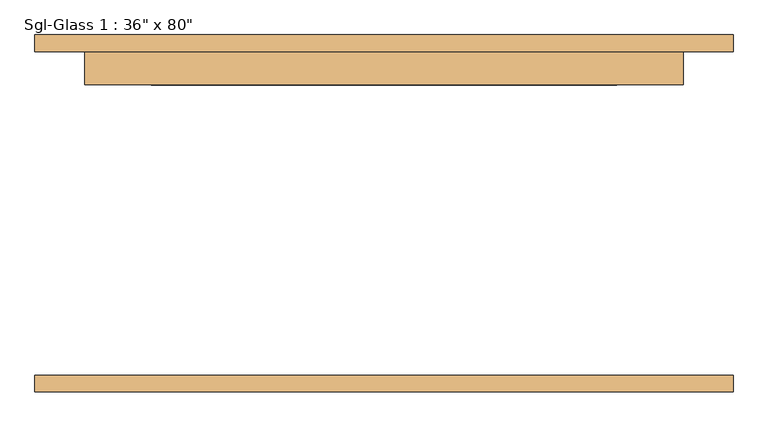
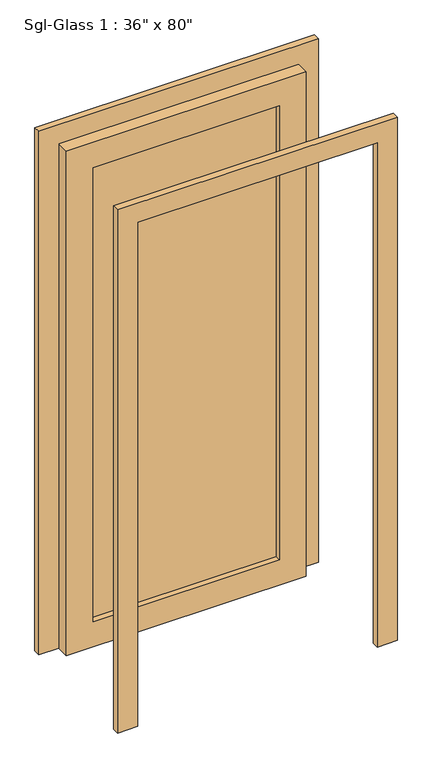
"""IFC4 building model written with IfcOpenShell, lengths in millimetres: door geometry."""

from ifc_helpers import new_model, si_unit, frame, origin, place, context, project, spatial, polyline, outline, extrude, source, transform, mapped, element, save


def door_78e9ea75(model_context):
    return source(origin(), model_context, "Body", "SweptSolid", [
        extrude(outline(polyline([(2032.0, 457.2), (0.0, 457.2), (0.0, 533.4), (2108.2, 533.4), (2108.2, -533.4), (0.0, -533.4), (0.0, -457.2), (2032.0, -457.2), (2032.0, 457.2)])), frame((0.0, -273.05, 0.0), z_axis=(0.0, 1.0, 0.0), x_axis=(0.0, 0.0, 1.0)), (0.0, 0.0, 1.0), 25.4),
        extrude(outline(polyline([(2032.0, 457.2), (0.0, 457.2), (0.0, 533.4), (2108.2, 533.4), (2108.2, -533.4), (0.0, -533.4), (0.0, -457.2), (2032.0, -457.2), (2032.0, 457.2)])), frame((0.0, 247.65, 0.0), z_axis=(0.0, 1.0, 0.0), x_axis=(0.0, 0.0, 1.0)), (0.0, 0.0, 1.0), 25.4),
        extrude(outline(polyline([(355.6, 219.075), (-355.6, 219.075), (-355.6, 225.425), (355.6, 225.425), (355.6, 219.075)])), frame((0.0, 0.0, 101.6), z_axis=(0.0, 0.0, 1.0), x_axis=(1.0, 0.0, 0.0)), (0.0, 0.0, 1.0), 1828.8),
        extrude(outline(polyline([(2032.0, 457.2), (2032.0, -457.2), (0.0, -457.2), (0.0, 457.2), (2032.0, 457.2)]), holes=[polyline([(1930.4, -355.6), (1930.4, 355.6), (101.6, 355.6), (101.6, -355.6), (1930.4, -355.6)])]), frame((0.0, 196.85, 0.0), z_axis=(0.0, 1.0, 0.0), x_axis=(0.0, 0.0, 1.0)), (0.0, 0.0, 1.0), 50.8),
    ])


if __name__ == "__main__":
    model = new_model("IFC4")
    model_context = context("Model", 3, world=origin())
    ifc_project = project(units=[si_unit("LENGTHUNIT", "METRE", prefix="MILLI")], contexts=[model_context])
    site = spatial("IfcSite", under=ifc_project)
    building = spatial("IfcBuilding", under=site)
    placement = place(None, origin())
    door_shape = door_78e9ea75(model_context)
    element("IfcDoor", 1, ObjectType="Sgl-Glass 1 : 36\" x 80\"", at=placement, inside=building, context=model_context, shape_type="MappedRepresentation", body=[
        mapped(door_shape, transform((0.0, 0.0, 0.0), x_axis=(1.0, 0.0, 0.0), y_axis=(0.0, 1.0, 0.0), z_axis=(0.0, 0.0, 1.0))),
    ])
    save(model, "model.ifc")
